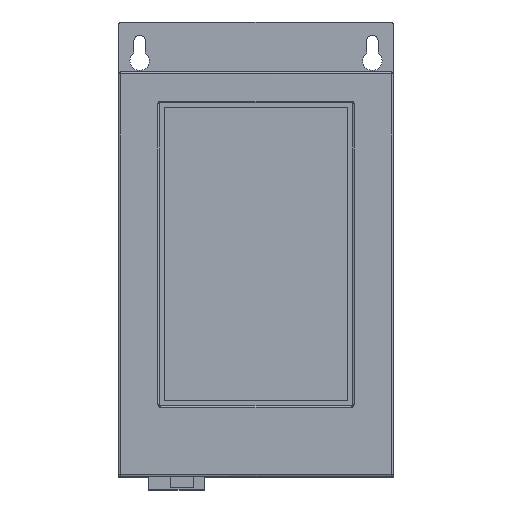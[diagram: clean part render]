
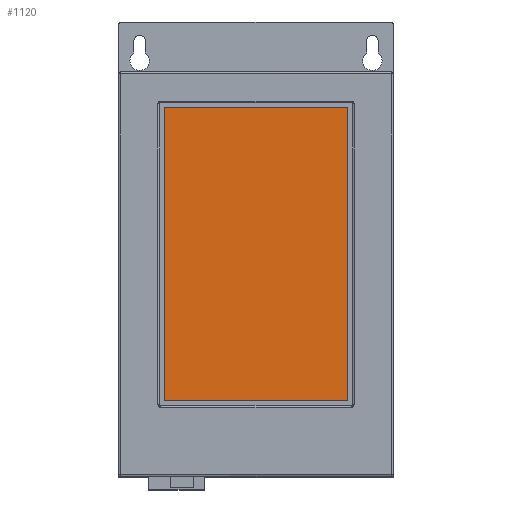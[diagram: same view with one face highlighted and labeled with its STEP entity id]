
A CAD part, top view. The second image highlights one B-rep face of the part: STEP entity #1120.
In plain terms, the highlighted planar face has unit normal (0, 0, 1).
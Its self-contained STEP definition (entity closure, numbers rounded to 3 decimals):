
#168 = CARTESIAN_POINT ( 'NONE',  ( 0., 130.425, 213.5 ) ) ;
#170 = DIRECTION ( 'NONE',  ( 0., -1., 0. ) ) ;
#740 = CARTESIAN_POINT ( 'NONE',  ( 0., 356.985, 213.5 ) ) ;
#769 = EDGE_CURVE ( 'NONE', #19469, #7361, #2971, .T. ) ;
#1120 = ADVANCED_FACE ( 'NONE', ( #12343 ), #9032, .T. ) ;
#1498 = VERTEX_POINT ( 'NONE', #15229 ) ;
#1869 = ORIENTED_EDGE ( 'NONE', *, *, #15997, .F. ) ;
#2528 = VECTOR ( 'NONE', #9260, 1000. ) ;
#2971 = LINE ( 'NONE', #17194, #2528 ) ;
#3726 = VECTOR ( 'NONE', #5491, 1000. ) ;
#4135 = DIRECTION ( 'NONE',  ( -1., 0., 0. ) ) ;
#4504 = VERTEX_POINT ( 'NONE', #15212 ) ;
#5326 = ORIENTED_EDGE ( 'NONE', *, *, #18554, .T. ) ;
#5491 = DIRECTION ( 'NONE',  ( 0., -1., 0. ) ) ;
#7361 = VERTEX_POINT ( 'NONE', #10117 ) ;
#8697 = VECTOR ( 'NONE', #4135, 1000. ) ;
#9032 = PLANE ( 'NONE',  #16697 ) ;
#9199 = ORIENTED_EDGE ( 'NONE', *, *, #769, .F. ) ;
#9260 = DIRECTION ( 'NONE',  ( 0., -1., 0. ) ) ;
#9443 = EDGE_LOOP ( 'NONE', ( #19737, #5326, #1869, #9199 ) ) ;
#9639 = CARTESIAN_POINT ( 'NONE',  ( 0., 243.705, 213.5 ) ) ;
#9821 = EDGE_CURVE ( 'NONE', #19469, #4504, #14825, .T. ) ;
#9827 = CARTESIAN_POINT ( 'NONE',  ( 70.8, 356.985, 213.5 ) ) ;
#10117 = CARTESIAN_POINT ( 'NONE',  ( 70.8, 130.425, 213.5 ) ) ;
#11204 = LINE ( 'NONE', #168, #15105 ) ;
#12343 = FACE_OUTER_BOUND ( 'NONE', #9443, .T. ) ;
#13692 = CARTESIAN_POINT ( 'NONE',  ( -70.8, 243.705, 213.5 ) ) ;
#14825 = LINE ( 'NONE', #740, #8697 ) ;
#15105 = VECTOR ( 'NONE', #17458, 1000. ) ;
#15212 = CARTESIAN_POINT ( 'NONE',  ( -70.8, 356.985, 213.5 ) ) ;
#15229 = CARTESIAN_POINT ( 'NONE',  ( -70.8, 130.425, 213.5 ) ) ;
#15997 = EDGE_CURVE ( 'NONE', #7361, #1498, #11204, .T. ) ;
#16697 = AXIS2_PLACEMENT_3D ( 'NONE', #9639, #19231, #170 ) ;
#17194 = CARTESIAN_POINT ( 'NONE',  ( 70.8, 243.705, 213.5 ) ) ;
#17458 = DIRECTION ( 'NONE',  ( -1., 0., 0. ) ) ;
#18343 = LINE ( 'NONE', #13692, #3726 ) ;
#18554 = EDGE_CURVE ( 'NONE', #4504, #1498, #18343, .T. ) ;
#19231 = DIRECTION ( 'NONE',  ( 0., 0., 1. ) ) ;
#19469 = VERTEX_POINT ( 'NONE', #9827 ) ;
#19737 = ORIENTED_EDGE ( 'NONE', *, *, #9821, .T. ) ;
